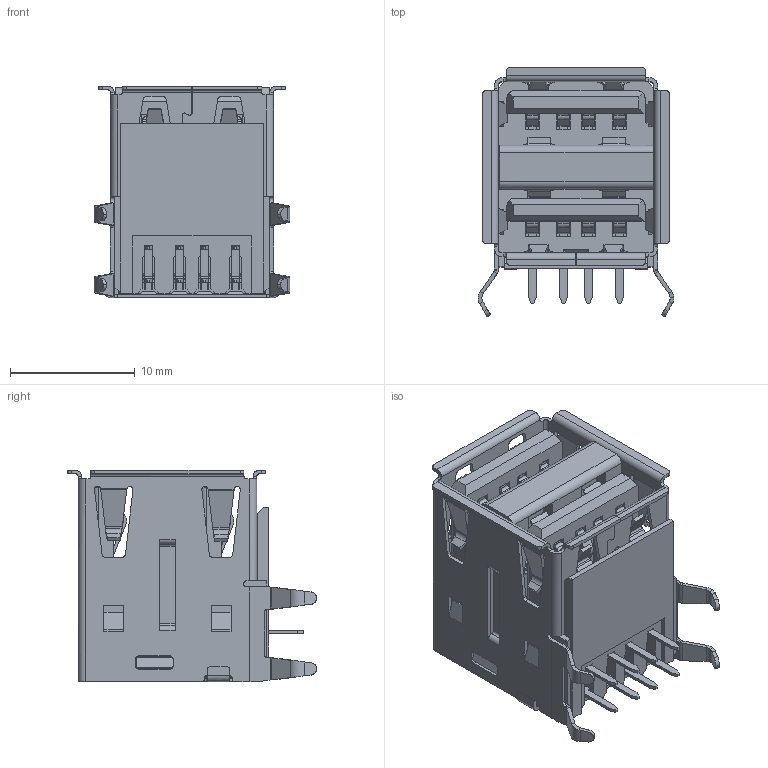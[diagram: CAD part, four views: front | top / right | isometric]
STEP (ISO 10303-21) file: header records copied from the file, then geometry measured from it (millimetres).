
FILE_DESCRIPTION (( 'STEP AP214' ), '1' );
FILE_NAME ('USB1035-XX-P-0-X-X_revE1.STEP', '2018-08-01T03:49:30', ( '' ), ( '' ), 'SwSTEP 2.0', 'SolidWorks 2016', '' );
FILE_SCHEMA (( 'AUTOMOTIVE_DESIGN' ));
Length unit declared in the file: millimetre
Products named in the file (2): USB1035-XX-P-0-X-X; USB1035-XX-P-0-X-X_revE1
Assembly tree (1 placements, depth 2):
  USB1035-XX-P-0-X-X_revE1
    USB1035-XX-P-0-X-X
Bounding box: 15.73 x 20 x 17 mm (x, y, z)
Volume: 1511.8 mm3; surface area: 5269.7 mm2
Topology: 1 solids, 1 shells, 2110 faces, 6207 edges, 3975 vertices
Faces by surface type: plane 1292, cylinder 651, bspline 167
Entity records: 81495 total; most frequent: CARTESIAN_POINT 23388, ORIENTED_EDGE 12414, DIRECTION 8527, EDGE_CURVE 6207, LINE 4365, VECTOR 4365, VERTEX_POINT 3975, EDGE_LOOP 2226
